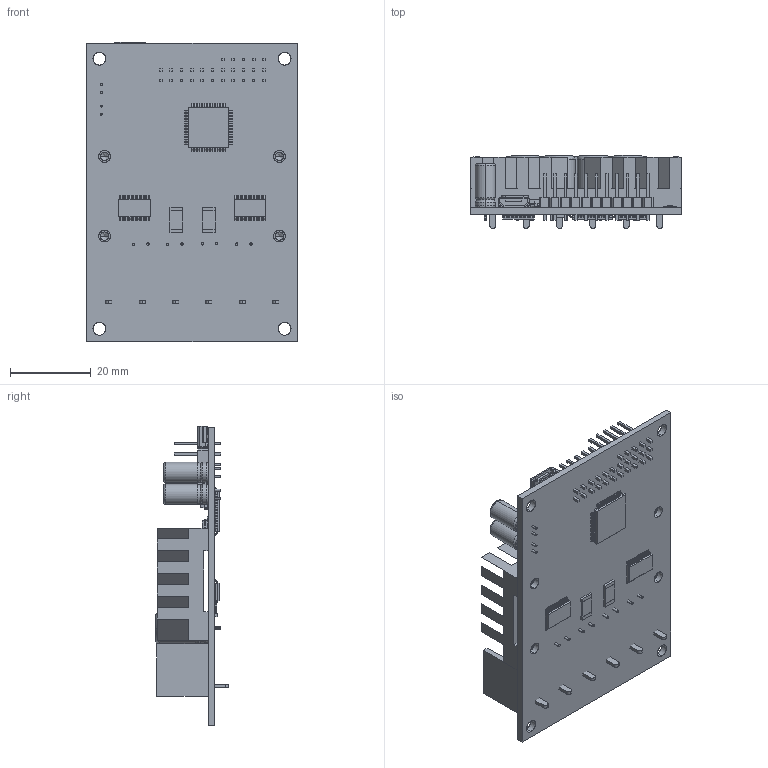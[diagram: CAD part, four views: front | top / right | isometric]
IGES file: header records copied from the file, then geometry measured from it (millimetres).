
Start section: SolidWorks IGES file using analytic representation for surfaces
Global section: file name: C:\Users\A Vinh\Desktop\MC15A-V5.IGS; native system: SolidWorks 2013; preprocessor: SolidWorks 2013; author: A Vinh; date: 150701.103042; units: millimetre
Bounding box: 52.26 x 18 x 73.86 mm (x, y, z)
Surface area: 24628.9 mm2 (no closed solid volume)
Topology: 0 solids, 0 shells, 2568 faces, 19088 edges, 19068 vertices
Faces by surface type: bspline 1984, revolution 584
